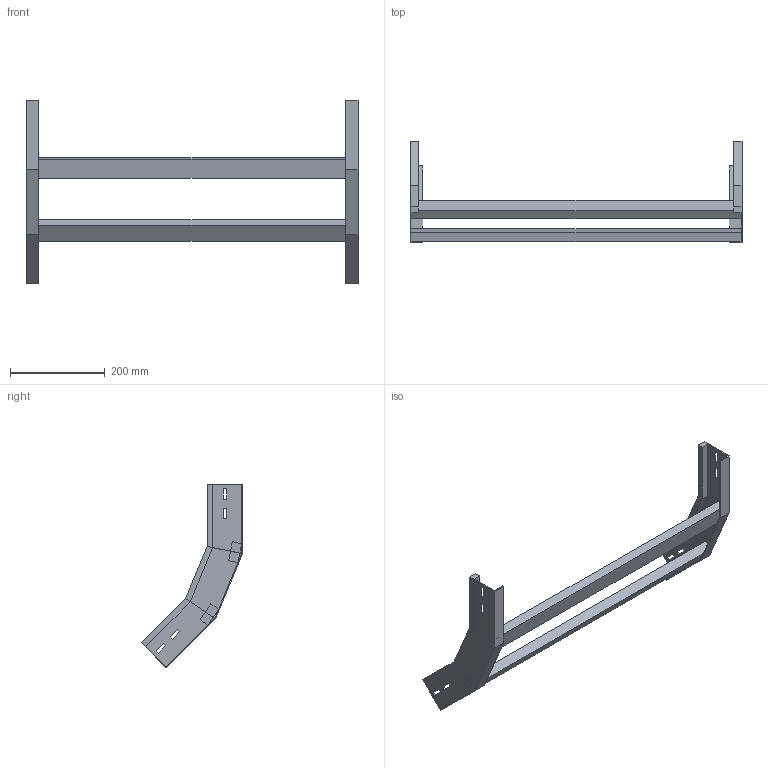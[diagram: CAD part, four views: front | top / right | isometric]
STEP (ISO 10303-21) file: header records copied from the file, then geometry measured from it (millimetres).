
FILE_DESCRIPTION (( 'STEP AP214' ), '1' );
FILE_NAME ('A2X31B3C700XX.step', '2025-03-20T10:09:11', ( '' ), ( '' ), 'SwSTEP 2.0', 'SolidWorks 2023', '' );
FILE_SCHEMA (( 'AUTOMOTIVE_DESIGN' ));
Length unit declared in the file: millimetre
Products named in the file (3): LONGH.SALITA_45°_H75_R300; A2X31B3C700XX; TRAVERSINO_700
Assembly tree (4 placements, depth 2):
  A2X31B3C700XX
    LONGH.SALITA_45°_H75_R300  x2
    TRAVERSINO_700  x2
Bounding box: 700 x 213.56 x 387.55 mm (x, y, z)
Volume: 1441315.1 mm3; surface area: 367450.7 mm2
Topology: 4 solids, 4 shells, 96 faces, 232 edges, 144 vertices
Faces by surface type: plane 96
Entity records: 1472 total; most frequent: CARTESIAN_POINT 243, ORIENTED_EDGE 232, DIRECTION 226, VECTOR 116, EDGE_CURVE 116, LINE 116, VERTEX_POINT 72, EDGE_LOOP 56
